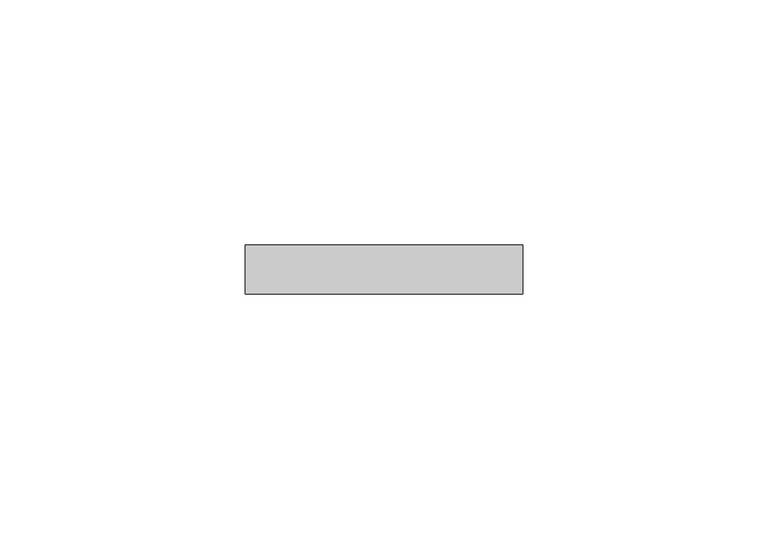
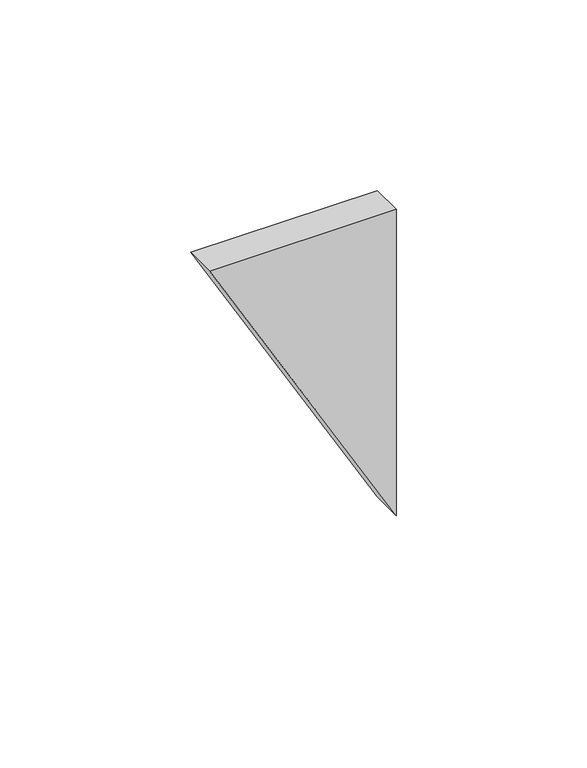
"""IFC4 building model written with IfcOpenShell, lengths in millimetres: plate geometry, 系統嵌板 : 玻璃 1.0cm."""

from ifc_helpers import new_model, si_unit, frame, origin, place, context, project, spatial, polyline, outline, extrude, source, transform, mapped, element, save


def plate_83047ba3(model_context):
    return source(origin(), model_context, "Body", "SweptSolid", [
        extrude(outline(polyline([(98.0762114, -28.3121635), (0.0, 28.3121635), (98.0762114, 28.3121635), (98.0762114, -28.3121635)])), frame((0.0, -5.0, 0.0), z_axis=(0.0, 1.0, 0.0), x_axis=(0.0, 0.0, 1.0)), (0.0, 0.0, 1.0), 10.0),
    ])


if __name__ == "__main__":
    model = new_model("IFC4")
    model_context = context("Model", 3, world=origin())
    ifc_project = project(units=[si_unit("LENGTHUNIT", "METRE", prefix="MILLI")], contexts=[model_context])
    site = spatial("IfcSite", under=ifc_project)
    building = spatial("IfcBuilding", under=site)
    placement = place(None, origin())
    plate_shape = plate_83047ba3(model_context)
    element("IfcPlate", 1, ObjectType="系統嵌板 : 玻璃 1.0cm", at=placement, inside=building, context=model_context, shape_type="MappedRepresentation", body=[
        mapped(plate_shape, transform((0.0, 0.0, 0.0), x_axis=(1.0, 0.0, 0.0), y_axis=(0.0, 1.0, 0.0), z_axis=(0.0, 0.0, 1.0))),
    ])
    save(model, "model.ifc")
